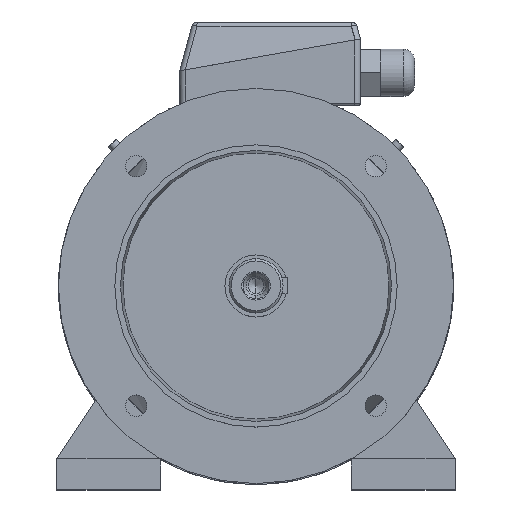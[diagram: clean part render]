
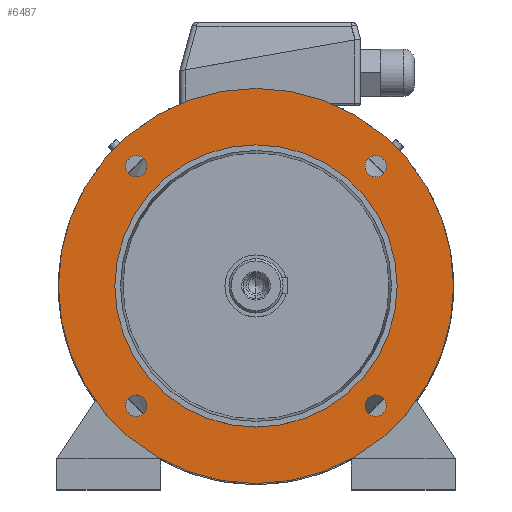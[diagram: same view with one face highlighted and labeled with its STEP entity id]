
A CAD part, top view. The second image highlights one B-rep face of the part: STEP entity #6487.
In plain terms, the highlighted planar face has unit normal (0, 0, 1).
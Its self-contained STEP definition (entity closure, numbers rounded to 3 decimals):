
#6 = EDGE_CURVE ( 'NONE', #2958, #4423, #10685, .T. ) ;
#104 = FACE_BOUND ( 'NONE', #5048, .T. ) ;
#105 = FACE_BOUND ( 'NONE', #9887, .T. ) ;
#106 = FACE_BOUND ( 'NONE', #8235, .T. ) ;
#107 = FACE_OUTER_BOUND ( 'NONE', #10622, .T. ) ;
#108 = FACE_BOUND ( 'NONE', #1671, .T. ) ;
#109 = FACE_BOUND ( 'NONE', #13385, .T. ) ;
#110 = PLANE ( 'NONE',  #111 ) ;
#111 = AXIS2_PLACEMENT_3D ( 'NONE', #112, #113, #121 ) ;
#112 = CARTESIAN_POINT ( 'NONE',  ( 0., 175., 81. ) ) ;
#113 = DIRECTION ( 'NONE',  ( 0., 0., -1. ) ) ;
#121 = DIRECTION ( 'NONE',  ( -1., 0., 0. ) ) ;
#742 = CARTESIAN_POINT ( 'NONE',  ( 115.566, 106.066, 81. ) ) ;
#850 = ORIENTED_EDGE ( 'NONE', *, *, #10413, .F. ) ;
#861 = CIRCLE ( 'NONE', #862, 9.5 ) ;
#862 = AXIS2_PLACEMENT_3D ( 'NONE', #863, #864, #865 ) ;
#863 = CARTESIAN_POINT ( 'NONE',  ( 106.066, 106.066, 81. ) ) ;
#864 = DIRECTION ( 'NONE',  ( 0., 0., 1. ) ) ;
#865 = DIRECTION ( 'NONE',  ( 1., 0., 0. ) ) ;
#1131 = VERTEX_POINT ( 'NONE', #11355 ) ;
#1387 = CARTESIAN_POINT ( 'NONE',  ( 96.566, 106.066, 81. ) ) ;
#1400 = EDGE_CURVE ( 'NONE', #2441, #1131, #11531, .T. ) ;
#1439 = CARTESIAN_POINT ( 'NONE',  ( -125., 0., 81. ) ) ;
#1569 = VERTEX_POINT ( 'NONE', #11635 ) ;
#1671 = EDGE_LOOP ( 'NONE', ( #8604, #13614 ) ) ;
#1737 = EDGE_CURVE ( 'NONE', #5196, #1569, #11739, .T. ) ;
#2074 = ORIENTED_EDGE ( 'NONE', *, *, #1737, .T. ) ;
#2441 = VERTEX_POINT ( 'NONE', #12120 ) ;
#2958 = VERTEX_POINT ( 'NONE', #12348 ) ;
#3201 = EDGE_CURVE ( 'NONE', #4423, #2958, #12427, .T. ) ;
#3588 = VERTEX_POINT ( 'NONE', #12671 ) ;
#3700 = CARTESIAN_POINT ( 'NONE',  ( 115.566, -106.066, 81. ) ) ;
#3810 = CIRCLE ( 'NONE', #3811, 9.5 ) ;
#3811 = AXIS2_PLACEMENT_3D ( 'NONE', #3812, #3813, #3814 ) ;
#3812 = CARTESIAN_POINT ( 'NONE',  ( 106.066, -106.066, 81. ) ) ;
#3813 = DIRECTION ( 'NONE',  ( 0., 0., 1. ) ) ;
#3814 = DIRECTION ( 'NONE',  ( 1., 0., 0. ) ) ;
#3853 = EDGE_CURVE ( 'NONE', #3588, #8491, #12865, .T. ) ;
#3854 = CIRCLE ( 'NONE', #3855, 9.5 ) ;
#3855 = AXIS2_PLACEMENT_3D ( 'NONE', #3856, #3857, #3858 ) ;
#3856 = CARTESIAN_POINT ( 'NONE',  ( 106.066, -106.066, 81. ) ) ;
#3857 = DIRECTION ( 'NONE',  ( 0., 0., 1. ) ) ;
#3858 = DIRECTION ( 'NONE',  ( 1., 0., 0. ) ) ;
#4094 = ORIENTED_EDGE ( 'NONE', *, *, #3853, .F. ) ;
#4423 = VERTEX_POINT ( 'NONE', #13141 ) ;
#4454 = CARTESIAN_POINT ( 'NONE',  ( 96.566, -106.066, 81. ) ) ;
#5048 = EDGE_LOOP ( 'NONE', ( #850, #10379 ) ) ;
#5196 = VERTEX_POINT ( 'NONE', #13583 ) ;
#5197 = EDGE_CURVE ( 'NONE', #1569, #5196, #13584, .T. ) ;
#5702 = CIRCLE ( 'NONE', #5703, 9.5 ) ;
#5703 = AXIS2_PLACEMENT_3D ( 'NONE', #5704, #5705, #5706 ) ;
#5704 = CARTESIAN_POINT ( 'NONE',  ( 106.066, 106.066, 81. ) ) ;
#5705 = DIRECTION ( 'NONE',  ( 0., 0., 1. ) ) ;
#5706 = DIRECTION ( 'NONE',  ( 1., 0., 0. ) ) ;
#6047 = CIRCLE ( 'NONE', #6048, 9.5 ) ;
#6048 = AXIS2_PLACEMENT_3D ( 'NONE', #6049, #6050, #6051 ) ;
#6049 = CARTESIAN_POINT ( 'NONE',  ( -106.066, 106.066, 81. ) ) ;
#6050 = DIRECTION ( 'NONE',  ( 0., 0., 1. ) ) ;
#6051 = DIRECTION ( 'NONE',  ( 1., 0., 0. ) ) ;
#6374 = CIRCLE ( 'NONE', #6375, 125. ) ;
#6375 = AXIS2_PLACEMENT_3D ( 'NONE', #6376, #6377, #6378 ) ;
#6376 = CARTESIAN_POINT ( 'NONE',  ( 0., 0., 81. ) ) ;
#6377 = DIRECTION ( 'NONE',  ( 0., 0., 1. ) ) ;
#6378 = DIRECTION ( 'NONE',  ( 1., 0., 0. ) ) ;
#6487 = ADVANCED_FACE ( 'NONE', ( #104, #105, #106, #107, #108, #109 ), #110, .F. ) ;
#7579 = VERTEX_POINT ( 'NONE', #742 ) ;
#7826 = EDGE_CURVE ( 'NONE', #8467, #7579, #861, .T. ) ;
#8235 = EDGE_LOOP ( 'NONE', ( #4094, #10764 ) ) ;
#8365 = ORIENTED_EDGE ( 'NONE', *, *, #9578, .F. ) ;
#8467 = VERTEX_POINT ( 'NONE', #1387 ) ;
#8491 = VERTEX_POINT ( 'NONE', #1439 ) ;
#8604 = ORIENTED_EDGE ( 'NONE', *, *, #6, .F. ) ;
#9374 = ORIENTED_EDGE ( 'NONE', *, *, #5197, .T. ) ;
#9524 = VERTEX_POINT ( 'NONE', #3700 ) ;
#9578 = EDGE_CURVE ( 'NONE', #9848, #9524, #3810, .T. ) ;
#9595 = EDGE_CURVE ( 'NONE', #9524, #9848, #3854, .T. ) ;
#9630 = ORIENTED_EDGE ( 'NONE', *, *, #9595, .F. ) ;
#9848 = VERTEX_POINT ( 'NONE', #4454 ) ;
#9887 = EDGE_LOOP ( 'NONE', ( #9630, #8365 ) ) ;
#10379 = ORIENTED_EDGE ( 'NONE', *, *, #7826, .F. ) ;
#10413 = EDGE_CURVE ( 'NONE', #7579, #8467, #5702, .T. ) ;
#10436 = ORIENTED_EDGE ( 'NONE', *, *, #1400, .F. ) ;
#10570 = EDGE_CURVE ( 'NONE', #1131, #2441, #6047, .T. ) ;
#10622 = EDGE_LOOP ( 'NONE', ( #9374, #2074 ) ) ;
#10685 = CIRCLE ( 'NONE', #10686, 9.5 ) ;
#10686 = AXIS2_PLACEMENT_3D ( 'NONE', #10687, #10688, #10689 ) ;
#10687 = CARTESIAN_POINT ( 'NONE',  ( -106.066, -106.066, 81. ) ) ;
#10688 = DIRECTION ( 'NONE',  ( 0., 0., 1. ) ) ;
#10689 = DIRECTION ( 'NONE',  ( 1., 0., 0. ) ) ;
#10763 = EDGE_CURVE ( 'NONE', #8491, #3588, #6374, .T. ) ;
#10764 = ORIENTED_EDGE ( 'NONE', *, *, #10763, .F. ) ;
#11355 = CARTESIAN_POINT ( 'NONE',  ( -96.566, 106.066, 81. ) ) ;
#11531 = CIRCLE ( 'NONE', #11532, 9.5 ) ;
#11532 = AXIS2_PLACEMENT_3D ( 'NONE', #11533, #11534, #11535 ) ;
#11533 = CARTESIAN_POINT ( 'NONE',  ( -106.066, 106.066, 81. ) ) ;
#11534 = DIRECTION ( 'NONE',  ( 0., 0., 1. ) ) ;
#11535 = DIRECTION ( 'NONE',  ( 1., 0., 0. ) ) ;
#11635 = CARTESIAN_POINT ( 'NONE',  ( 175., 0., 81. ) ) ;
#11739 = CIRCLE ( 'NONE', #11740, 175. ) ;
#11740 = AXIS2_PLACEMENT_3D ( 'NONE', #11741, #11742, #11743 ) ;
#11741 = CARTESIAN_POINT ( 'NONE',  ( 0., 0., 81. ) ) ;
#11742 = DIRECTION ( 'NONE',  ( 0., 0., 1. ) ) ;
#11743 = DIRECTION ( 'NONE',  ( 1., 0., 0. ) ) ;
#12120 = CARTESIAN_POINT ( 'NONE',  ( -115.566, 106.066, 81. ) ) ;
#12348 = CARTESIAN_POINT ( 'NONE',  ( -96.566, -106.066, 81. ) ) ;
#12427 = CIRCLE ( 'NONE', #12428, 9.5 ) ;
#12428 = AXIS2_PLACEMENT_3D ( 'NONE', #12429, #12430, #12431 ) ;
#12429 = CARTESIAN_POINT ( 'NONE',  ( -106.066, -106.066, 81. ) ) ;
#12430 = DIRECTION ( 'NONE',  ( 0., 0., 1. ) ) ;
#12431 = DIRECTION ( 'NONE',  ( 1., 0., 0. ) ) ;
#12671 = CARTESIAN_POINT ( 'NONE',  ( 125., 0., 81. ) ) ;
#12865 = CIRCLE ( 'NONE', #12866, 125. ) ;
#12866 = AXIS2_PLACEMENT_3D ( 'NONE', #12867, #12868, #12869 ) ;
#12867 = CARTESIAN_POINT ( 'NONE',  ( 0., 0., 81. ) ) ;
#12868 = DIRECTION ( 'NONE',  ( 0., 0., 1. ) ) ;
#12869 = DIRECTION ( 'NONE',  ( 1., 0., 0. ) ) ;
#12993 = ORIENTED_EDGE ( 'NONE', *, *, #10570, .F. ) ;
#13141 = CARTESIAN_POINT ( 'NONE',  ( -115.566, -106.066, 81. ) ) ;
#13385 = EDGE_LOOP ( 'NONE', ( #12993, #10436 ) ) ;
#13583 = CARTESIAN_POINT ( 'NONE',  ( -175., 0., 81. ) ) ;
#13584 = CIRCLE ( 'NONE', #13585, 175. ) ;
#13585 = AXIS2_PLACEMENT_3D ( 'NONE', #13586, #13587, #13588 ) ;
#13586 = CARTESIAN_POINT ( 'NONE',  ( 0., 0., 81. ) ) ;
#13587 = DIRECTION ( 'NONE',  ( 0., 0., 1. ) ) ;
#13588 = DIRECTION ( 'NONE',  ( 1., 0., 0. ) ) ;
#13614 = ORIENTED_EDGE ( 'NONE', *, *, #3201, .F. ) ;
